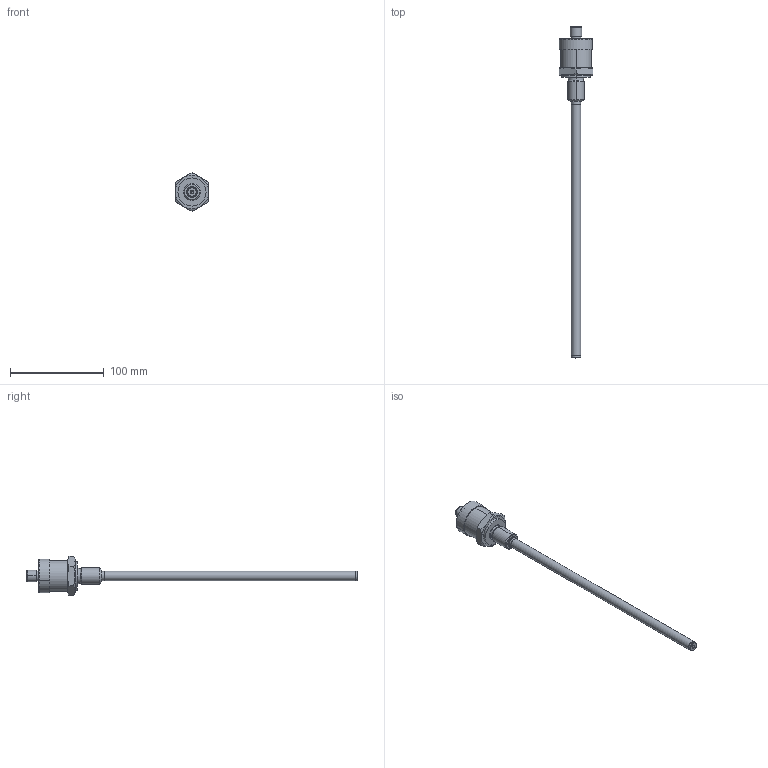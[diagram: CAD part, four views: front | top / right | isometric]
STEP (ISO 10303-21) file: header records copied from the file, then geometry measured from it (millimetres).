
FILE_DESCRIPTION (( 'STEP AP203' ), '1' );
FILE_NAME ('RK-4_0200.STEP', '2009-05-12T07:58:01', ( 'User' ), ( 'Gefran S.p.a.' ), 'SwSTEP 2.0', 'SolidWorks 2009', '' );
FILE_SCHEMA (( 'CONFIG_CONTROL_DESIGN' ));
Length unit declared in the file: millimetre
Products named in the file (9): TUB1108_Revisione_0; RK-4_0200; PTUBxxx; NIP415; TAPxxx; CONxxx; PKITxxx; PUN006; GHIxxx
Assembly tree (8 placements, depth 3):
  RK-4_0200
    PKITxxx
      CONxxx
      TAPxxx
    GHIxxx
    PTUBxxx
      NIP415
      PUN006
      TUB1108_Revisione_0
Bounding box: 36 x 353.8 x 41.57 mm (x, y, z)
Volume: 32865.1 mm3; surface area: 36192.4 mm2
Topology: 5 solids, 16 shells, 402 faces, 972 edges, 617 vertices
Faces by surface type: cylinder 126, plane 114, cone 56, sphere 40, bspline 38, torus 28
Entity records: 14349 total; most frequent: CARTESIAN_POINT 4189, DIRECTION 2032, ORIENTED_EDGE 1820, EDGE_CURVE 920, AXIS2_PLACEMENT_3D 822, VERTEX_POINT 587, EDGE_LOOP 457, CIRCLE 444
